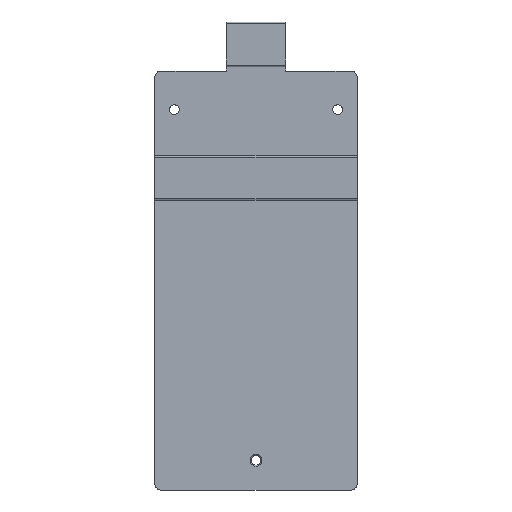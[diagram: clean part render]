
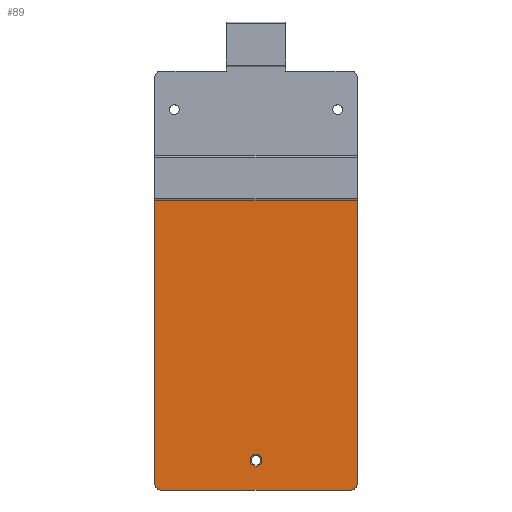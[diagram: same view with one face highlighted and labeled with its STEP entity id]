
A CAD part, front view. The second image highlights one B-rep face of the part: STEP entity #89.
In plain terms, the highlighted planar face has unit normal (0, -1, 0).
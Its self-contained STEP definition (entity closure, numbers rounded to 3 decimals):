
#64=FACE_BOUND('',#197,.T.);
#65=FACE_BOUND('',#198,.T.);
#89=ADVANCED_FACE('',(#64,#65),#134,.T.);
#134=PLANE('',#907);
#197=EDGE_LOOP('',(#334));
#198=EDGE_LOOP('',(#335,#336,#337,#338,#339,#340));
#260=CIRCLE('',#904,2.);
#261=CIRCLE('',#905,2.);
#262=CIRCLE('',#906,2.);
#334=ORIENTED_EDGE('',*,*,#650,.T.);
#335=ORIENTED_EDGE('',*,*,#604,.T.);
#336=ORIENTED_EDGE('',*,*,#651,.T.);
#337=ORIENTED_EDGE('',*,*,#646,.F.);
#338=ORIENTED_EDGE('',*,*,#652,.T.);
#339=ORIENTED_EDGE('',*,*,#640,.F.);
#340=ORIENTED_EDGE('',*,*,#653,.F.);
#522=VERTEX_POINT('',#1219);
#523=VERTEX_POINT('',#1221);
#556=VERTEX_POINT('',#1291);
#557=VERTEX_POINT('',#1293);
#562=VERTEX_POINT('',#1306);
#563=VERTEX_POINT('',#1307);
#566=VERTEX_POINT('',#1315);
#604=EDGE_CURVE('',#523,#522,#722,.T.);
#640=EDGE_CURVE('',#556,#557,#746,.T.);
#646=EDGE_CURVE('',#562,#563,#752,.T.);
#650=EDGE_CURVE('',#566,#566,#260,.T.);
#651=EDGE_CURVE('',#522,#563,#261,.T.);
#652=EDGE_CURVE('',#562,#557,#262,.T.);
#653=EDGE_CURVE('',#523,#556,#756,.T.);
#722=LINE('',#1220,#806);
#746=LINE('',#1292,#830);
#752=LINE('',#1305,#836);
#756=LINE('',#1318,#840);
#806=VECTOR('',#972,1.);
#830=VECTOR('',#1024,1.);
#836=VECTOR('',#1034,1.);
#840=VECTOR('',#1046,1.);
#904=AXIS2_PLACEMENT_3D('',#1314,#1040,#1041);
#905=AXIS2_PLACEMENT_3D('',#1316,#1042,#1043);
#906=AXIS2_PLACEMENT_3D('',#1317,#1044,#1045);
#907=AXIS2_PLACEMENT_3D('',#1319,#1047,#1048);
#972=DIRECTION('',(0.,0.,-1.));
#1024=DIRECTION('',(0.,0.,-1.));
#1034=DIRECTION('',(-1.,0.,0.));
#1040=DIRECTION('',(0.,1.,0.));
#1041=DIRECTION('',(0.,0.,-1.));
#1042=DIRECTION('',(0.,-1.,0.));
#1043=DIRECTION('',(0.,0.,-1.));
#1044=DIRECTION('',(0.,-1.,0.));
#1045=DIRECTION('',(0.,0.,-1.));
#1046=DIRECTION('',(1.,0.,0.));
#1047=DIRECTION('',(0.,-1.,0.));
#1048=DIRECTION('',(0.,0.,-1.));
#1219=CARTESIAN_POINT('',(-34.,-39.5,-99.));
#1220=CARTESIAN_POINT('',(-34.,-39.5,47.));
#1221=CARTESIAN_POINT('',(-34.,-39.5,-0.9));
#1291=CARTESIAN_POINT('',(34.,-39.5,-0.9));
#1292=CARTESIAN_POINT('',(34.,-39.5,47.));
#1293=CARTESIAN_POINT('',(34.,-39.5,-99.));
#1305=CARTESIAN_POINT('',(34.,-39.5,-101.));
#1306=CARTESIAN_POINT('',(32.,-39.5,-101.));
#1307=CARTESIAN_POINT('',(-32.,-39.5,-101.));
#1314=CARTESIAN_POINT('',(0.,-39.5,-91.));
#1315=CARTESIAN_POINT('',(0.,-39.5,-93.));
#1316=CARTESIAN_POINT('',(-32.,-39.5,-99.));
#1317=CARTESIAN_POINT('',(32.,-39.5,-99.));
#1318=CARTESIAN_POINT('',(34.,-39.5,-0.9));
#1319=CARTESIAN_POINT('',(34.,-39.5,47.));
